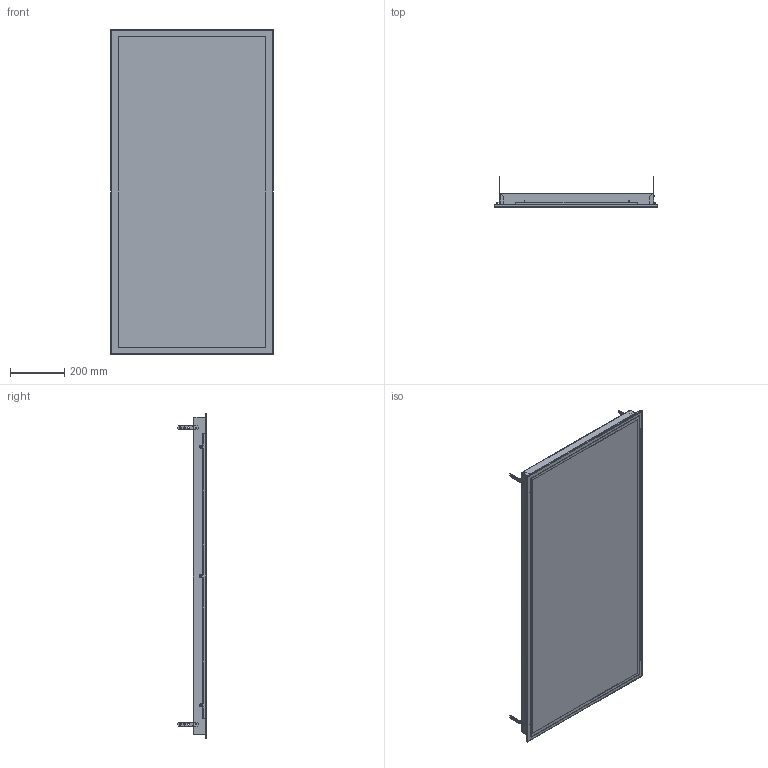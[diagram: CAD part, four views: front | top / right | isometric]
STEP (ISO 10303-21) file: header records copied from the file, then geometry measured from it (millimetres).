
FILE_DESCRIPTION(('STEP AP203'), '1');
FILE_NAME('ÄÊÏ008 02 002.00 ÑÁ - Ñâåòèëüíèê 1200õ600', '', ('UNSPECIFIED'), ('UNSPECIFIED'), 'ASCON STEP Converter 1.6', 'ASCON Math Kernel', '');
FILE_SCHEMA(('CONFIG_CONTROL_DESIGN'));
Length unit declared in the file: millimetre
Products named in the file (14): ДКП008 02 002.00 СБ; ДКП008 02 003.01; ДКП008 01 003.03; ДКП008 01 003.02; ДКП008 02 003.08; ДКП008 02 002.02; ДКП008 02 002.04; ДКП008 02 002.05; ДКП008 02 002.06
Assembly tree (25 placements, depth 3):
  ДКП008 02 002.00 СБ
    ДКП008 02 003.01
      ДКП008 02 003.01
      ДКП008 01 003.03  x4
      ДКП008 01 003.02  x2
      ДКП008 02 003.08  x2
    ДКП008 02 002.02
      ДКП008 02 002.04
      ДКП008 02 002.05
      ДКП008 02 002.06
    (unnamed)  x3
    (unnamed)  x3
    (unnamed)  x4
    (unnamed)
Bounding box: 599 x 110 x 1199 mm (x, y, z)
Volume: 2632317.4 mm3; surface area: 3509728.6 mm2
Topology: 23 solids, 23 shells, 733 faces, 1761 edges, 1104 vertices
Faces by surface type: plane 446, cylinder 207, bspline 48, torus 20, cone 12
Full cylindrical faces by diameter (mm): 1.85 x4, 2.2 x6, 2.5 x10, 3.2 x4, 3.5 x86, 4.4 x6, 4.5 x4, 8 x12, 20 x1
Entity records: 17710 total; most frequent: CARTESIAN_POINT 4213, DIRECTION 2538, ORIENTED_EDGE 2320, EDGE_CURVE 1160, AXIS2_PLACEMENT_3D 889, EDGE_LOOP 848, VERTEX_POINT 772, LINE 760
